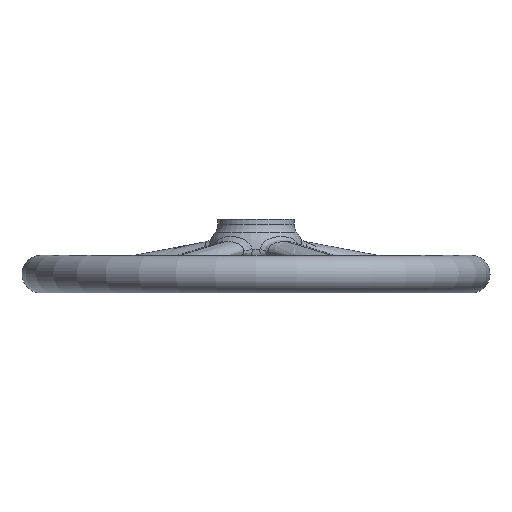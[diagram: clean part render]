
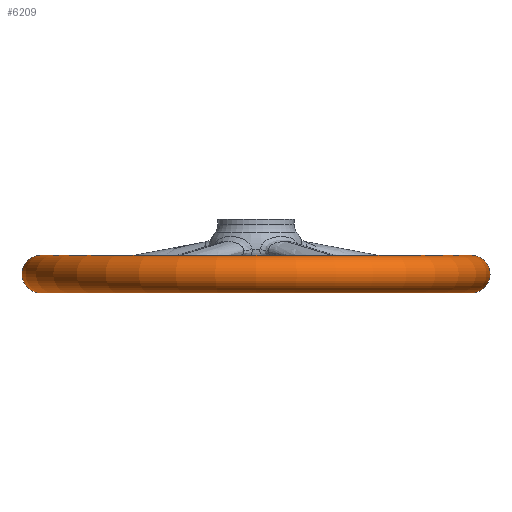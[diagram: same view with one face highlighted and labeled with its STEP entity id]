
A CAD part, front view. The second image highlights one B-rep face of the part: STEP entity #6209.
In plain terms, the highlighted toroidal (fillet/blend) face has major radius 184 mm and minor radius 16 mm.
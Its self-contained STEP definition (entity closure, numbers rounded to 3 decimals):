
#19 = CIRCLE ( 'NONE', #6823, 16. ) ;
#99 = CARTESIAN_POINT ( 'NONE',  ( 184., 0., -49.338 ) ) ;
#438 = EDGE_CURVE ( 'NONE', #9931, #8269, #19, .T. ) ;
#444 = CIRCLE ( 'NONE', #9839, 184. ) ;
#460 = TOROIDAL_SURFACE ( 'NONE', #837, 184., 16. ) ;
#837 = AXIS2_PLACEMENT_3D ( 'NONE', #11128, #1662, #2538 ) ;
#856 = DIRECTION ( 'NONE',  ( 0., 1., 0. ) ) ;
#1272 = CIRCLE ( 'NONE', #6892, 184. ) ;
#1662 = DIRECTION ( 'NONE',  ( 0., 0., 1. ) ) ;
#1756 = ORIENTED_EDGE ( 'NONE', *, *, #438, .F. ) ;
#1906 = DIRECTION ( 'NONE',  ( 0., 0., -1. ) ) ;
#2538 = DIRECTION ( 'NONE',  ( 1., 0., 0. ) ) ;
#2664 = CIRCLE ( 'NONE', #8274, 16. ) ;
#3119 = EDGE_CURVE ( 'NONE', #8269, #8920, #444, .T. ) ;
#3318 = DIRECTION ( 'NONE',  ( 1., 0., 0. ) ) ;
#3838 = CARTESIAN_POINT ( 'NONE',  ( 184., 0., -33.338 ) ) ;
#4674 = ORIENTED_EDGE ( 'NONE', *, *, #10806, .T. ) ;
#5154 = CARTESIAN_POINT ( 'NONE',  ( 0., 0., -33.338 ) ) ;
#6019 = DIRECTION ( 'NONE',  ( 0., 0., 1. ) ) ;
#6209 = ADVANCED_FACE ( 'NONE', ( #12242 ), #460, .T. ) ;
#6788 = EDGE_LOOP ( 'NONE', ( #1756, #7392, #4674, #8800 ) ) ;
#6796 = CARTESIAN_POINT ( 'NONE',  ( 184., 0., -65.338 ) ) ;
#6823 = AXIS2_PLACEMENT_3D ( 'NONE', #10446, #856, #7570 ) ;
#6892 = AXIS2_PLACEMENT_3D ( 'NONE', #11773, #6019, #3318 ) ;
#7027 = CARTESIAN_POINT ( 'NONE',  ( -184., 0., -65.338 ) ) ;
#7392 = ORIENTED_EDGE ( 'NONE', *, *, #11993, .T. ) ;
#7570 = DIRECTION ( 'NONE',  ( -1., 0., 0. ) ) ;
#8269 = VERTEX_POINT ( 'NONE', #10367 ) ;
#8274 = AXIS2_PLACEMENT_3D ( 'NONE', #99, #12366, #1906 ) ;
#8800 = ORIENTED_EDGE ( 'NONE', *, *, #3119, .F. ) ;
#8920 = VERTEX_POINT ( 'NONE', #3838 ) ;
#9729 = VERTEX_POINT ( 'NONE', #6796 ) ;
#9839 = AXIS2_PLACEMENT_3D ( 'NONE', #5154, #10850, #11788 ) ;
#9931 = VERTEX_POINT ( 'NONE', #7027 ) ;
#10367 = CARTESIAN_POINT ( 'NONE',  ( -184., 0., -33.338 ) ) ;
#10446 = CARTESIAN_POINT ( 'NONE',  ( -184., 0., -49.338 ) ) ;
#10806 = EDGE_CURVE ( 'NONE', #9729, #8920, #2664, .T. ) ;
#10850 = DIRECTION ( 'NONE',  ( 0., 0., 1. ) ) ;
#11128 = CARTESIAN_POINT ( 'NONE',  ( 0., 0., -49.338 ) ) ;
#11773 = CARTESIAN_POINT ( 'NONE',  ( 0., 0., -65.338 ) ) ;
#11788 = DIRECTION ( 'NONE',  ( 1., 0., 0. ) ) ;
#11993 = EDGE_CURVE ( 'NONE', #9931, #9729, #1272, .T. ) ;
#12242 = FACE_OUTER_BOUND ( 'NONE', #6788, .T. ) ;
#12366 = DIRECTION ( 'NONE',  ( 0., -1., 0. ) ) ;
